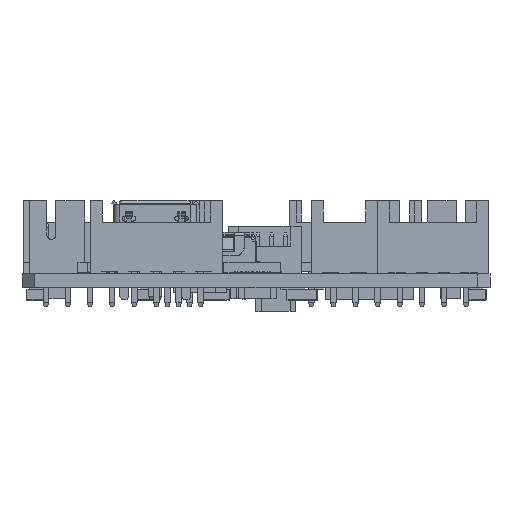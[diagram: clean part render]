
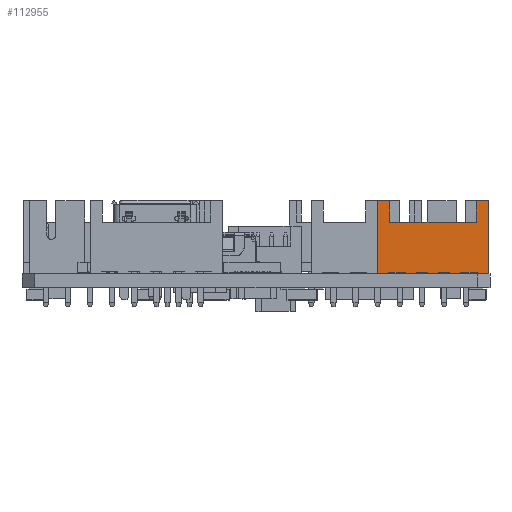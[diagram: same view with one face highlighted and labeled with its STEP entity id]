
A CAD part, front view. The second image highlights one B-rep face of the part: STEP entity #112955.
In plain terms, the highlighted planar face has unit normal (0, -1, 0).
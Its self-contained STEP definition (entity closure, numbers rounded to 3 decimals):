
#109951 = VERTEX_POINT('',#109952);
#109952 = CARTESIAN_POINT('',(21.,-20.5,
    0.01));
#110060 = VERTEX_POINT('',#110061);
#110061 = CARTESIAN_POINT('',(21.,-20.5,
    6.61));
#110067 = EDGE_CURVE('',#109951,#110060,#110068,.T.);
#110068 = LINE('',#110069,#110070);
#110069 = CARTESIAN_POINT('',(21.,-20.5,
    6.61));
#110070 = VECTOR('',#110071,1.);
#110071 = DIRECTION('',(0.,0.,1.));
#110254 = VERTEX_POINT('',#110255);
#110255 = CARTESIAN_POINT('',(19.9,-20.5,
    4.66));
#110261 = EDGE_CURVE('',#110262,#110254,#110264,.T.);
#110262 = VERTEX_POINT('',#110263);
#110263 = CARTESIAN_POINT('',(19.9,-20.5,
    6.61));
#110264 = LINE('',#110265,#110266);
#110265 = CARTESIAN_POINT('',(19.9,-20.5,
    6.61));
#110266 = VECTOR('',#110267,1.);
#110267 = DIRECTION('',(0.,0.,-1.));
#110284 = VERTEX_POINT('',#110285);
#110285 = CARTESIAN_POINT('',(20.,-20.5,
    0.01));
#110293 = EDGE_CURVE('',#110284,#110294,#110296,.T.);
#110294 = VERTEX_POINT('',#110295);
#110295 = CARTESIAN_POINT('',(20.,-20.5,
    0.16));
#110296 = LINE('',#110297,#110298);
#110297 = CARTESIAN_POINT('',(20.,-20.5,
    6.61));
#110298 = VECTOR('',#110299,1.);
#110299 = DIRECTION('',(0.,0.,1.));
#110324 = VERTEX_POINT('',#110325);
#110325 = CARTESIAN_POINT('',(18.5,-20.5,
    0.16));
#110333 = EDGE_CURVE('',#110324,#110334,#110336,.T.);
#110334 = VERTEX_POINT('',#110335);
#110335 = CARTESIAN_POINT('',(18.5,-20.5,
    0.01));
#110336 = LINE('',#110337,#110338);
#110337 = CARTESIAN_POINT('',(18.5,-20.5,
    6.61));
#110338 = VECTOR('',#110339,1.);
#110339 = DIRECTION('',(0.,0.,-1.));
#110363 = EDGE_CURVE('',#110364,#110366,#110368,.T.);
#110364 = VERTEX_POINT('',#110365);
#110365 = CARTESIAN_POINT('',(11.,-20.5,
    0.01));
#110366 = VERTEX_POINT('',#110367);
#110367 = CARTESIAN_POINT('',(12.,-20.5,
    0.01));
#110368 = LINE('',#110369,#110370);
#110369 = CARTESIAN_POINT('',(21.222,-20.5,
    0.01));
#110370 = VECTOR('',#110371,1.);
#110371 = DIRECTION('',(1.,0.,0.));
#110667 = EDGE_CURVE('',#110262,#110060,#110668,.T.);
#110668 = LINE('',#110669,#110670);
#110669 = CARTESIAN_POINT('',(19.9,-20.5,
    6.61));
#110670 = VECTOR('',#110671,1.);
#110671 = DIRECTION('',(1.,0.,0.));
#111423 = EDGE_CURVE('',#110294,#110324,#111424,.T.);
#111424 = LINE('',#111425,#111426);
#111425 = CARTESIAN_POINT('',(10.778,-20.5,
    0.16));
#111426 = VECTOR('',#111427,1.);
#111427 = DIRECTION('',(-1.,0.,0.));
#111432 = VERTEX_POINT('',#111433);
#111433 = CARTESIAN_POINT('',(17.5,-20.5,
    0.16));
#111439 = EDGE_CURVE('',#111440,#111432,#111442,.T.);
#111440 = VERTEX_POINT('',#111441);
#111441 = CARTESIAN_POINT('',(16.5,-20.5,
    0.16));
#111442 = LINE('',#111443,#111444);
#111443 = CARTESIAN_POINT('',(21.222,-20.5,
    0.16));
#111444 = VECTOR('',#111445,1.);
#111445 = DIRECTION('',(1.,0.,0.));
#111464 = VERTEX_POINT('',#111465);
#111465 = CARTESIAN_POINT('',(15.5,-20.5,
    0.16));
#111471 = EDGE_CURVE('',#111472,#111464,#111474,.T.);
#111472 = VERTEX_POINT('',#111473);
#111473 = CARTESIAN_POINT('',(14.5,-20.5,
    0.16));
#111474 = LINE('',#111475,#111476);
#111475 = CARTESIAN_POINT('',(21.222,-20.5,
    0.16));
#111476 = VECTOR('',#111477,1.);
#111477 = DIRECTION('',(1.,0.,0.));
#111496 = VERTEX_POINT('',#111497);
#111497 = CARTESIAN_POINT('',(13.5,-20.5,
    0.16));
#111503 = EDGE_CURVE('',#111504,#111496,#111506,.T.);
#111504 = VERTEX_POINT('',#111505);
#111505 = CARTESIAN_POINT('',(12.,-20.5,
    0.16));
#111506 = LINE('',#111507,#111508);
#111507 = CARTESIAN_POINT('',(21.222,-20.5,
    0.16));
#111508 = VECTOR('',#111509,1.);
#111509 = DIRECTION('',(1.,0.,0.));
#111873 = EDGE_CURVE('',#110334,#111874,#111876,.T.);
#111874 = VERTEX_POINT('',#111875);
#111875 = CARTESIAN_POINT('',(17.5,-20.5,
    0.01));
#111876 = LINE('',#111877,#111878);
#111877 = CARTESIAN_POINT('',(10.778,-20.5,
    0.01));
#111878 = VECTOR('',#111879,1.);
#111879 = DIRECTION('',(-1.,0.,0.));
#112181 = VERTEX_POINT('',#112182);
#112182 = CARTESIAN_POINT('',(13.5,-20.5,
    0.01));
#112188 = EDGE_CURVE('',#111496,#112181,#112189,.T.);
#112189 = LINE('',#112190,#112191);
#112190 = CARTESIAN_POINT('',(13.5,-20.5,
    6.61));
#112191 = VECTOR('',#112192,1.);
#112192 = DIRECTION('',(0.,0.,-1.));
#112286 = EDGE_CURVE('',#109951,#110284,#112287,.T.);
#112287 = LINE('',#112288,#112289);
#112288 = CARTESIAN_POINT('',(10.778,-20.5,
    0.01));
#112289 = VECTOR('',#112290,1.);
#112290 = DIRECTION('',(-1.,0.,0.));
#112445 = EDGE_CURVE('',#112446,#110254,#112448,.T.);
#112446 = VERTEX_POINT('',#112447);
#112447 = CARTESIAN_POINT('',(12.1,-20.5,
    4.66));
#112448 = LINE('',#112449,#112450);
#112449 = CARTESIAN_POINT('',(36.778,-20.5,
    4.66));
#112450 = VECTOR('',#112451,1.);
#112451 = DIRECTION('',(1.,0.,0.));
#112747 = VERTEX_POINT('',#112748);
#112748 = CARTESIAN_POINT('',(11.,-20.5,
    6.61));
#112754 = EDGE_CURVE('',#112755,#112747,#112757,.T.);
#112755 = VERTEX_POINT('',#112756);
#112756 = CARTESIAN_POINT('',(12.1,-20.5,
    6.61));
#112757 = LINE('',#112758,#112759);
#112758 = CARTESIAN_POINT('',(12.1,-20.5,
    6.61));
#112759 = VECTOR('',#112760,1.);
#112760 = DIRECTION('',(-1.,0.,0.));
#112813 = EDGE_CURVE('',#112755,#112446,#112814,.T.);
#112814 = LINE('',#112815,#112816);
#112815 = CARTESIAN_POINT('',(12.1,-20.5,
    6.61));
#112816 = VECTOR('',#112817,1.);
#112817 = DIRECTION('',(0.,0.,-1.));
#112831 = EDGE_CURVE('',#110366,#111504,#112832,.T.);
#112832 = LINE('',#112833,#112834);
#112833 = CARTESIAN_POINT('',(12.,-20.5,
    6.61));
#112834 = VECTOR('',#112835,1.);
#112835 = DIRECTION('',(0.,0.,1.));
#112863 = EDGE_CURVE('',#112864,#112866,#112868,.T.);
#112864 = VERTEX_POINT('',#112865);
#112865 = CARTESIAN_POINT('',(15.5,-20.5,
    0.01));
#112866 = VERTEX_POINT('',#112867);
#112867 = CARTESIAN_POINT('',(16.5,-20.5,
    0.01));
#112868 = LINE('',#112869,#112870);
#112869 = CARTESIAN_POINT('',(21.222,-20.5,
    0.01));
#112870 = VECTOR('',#112871,1.);
#112871 = DIRECTION('',(1.,0.,0.));
#112910 = EDGE_CURVE('',#111464,#112864,#112911,.T.);
#112911 = LINE('',#112912,#112913);
#112912 = CARTESIAN_POINT('',(15.5,-20.5,
    6.61));
#112913 = VECTOR('',#112914,1.);
#112914 = DIRECTION('',(0.,0.,-1.));
#112944 = EDGE_CURVE('',#112866,#111440,#112945,.T.);
#112945 = LINE('',#112946,#112947);
#112946 = CARTESIAN_POINT('',(16.5,-20.5,
    6.61));
#112947 = VECTOR('',#112948,1.);
#112948 = DIRECTION('',(0.,0.,1.));
#112955 = ADVANCED_FACE('',(#112956),#113004,.T.);
#112956 = FACE_BOUND('',#112957,.T.);
#112957 = EDGE_LOOP('',(#112958,#112959,#112960,#112961,#112967,#112968,
    #112969,#112970,#112971,#112979,#112985,#112986,#112987,#112988,
    #112989,#112990,#112996,#112997,#112998,#112999,#113000,#113001,
    #113002,#113003));
#112958 = ORIENTED_EDGE('',*,*,#112445,.F.);
#112959 = ORIENTED_EDGE('',*,*,#112813,.F.);
#112960 = ORIENTED_EDGE('',*,*,#112754,.T.);
#112961 = ORIENTED_EDGE('',*,*,#112962,.F.);
#112962 = EDGE_CURVE('',#110364,#112747,#112963,.T.);
#112963 = LINE('',#112964,#112965);
#112964 = CARTESIAN_POINT('',(11.,-20.5,
    6.61));
#112965 = VECTOR('',#112966,1.);
#112966 = DIRECTION('',(0.,0.,1.));
#112967 = ORIENTED_EDGE('',*,*,#110363,.T.);
#112968 = ORIENTED_EDGE('',*,*,#112831,.T.);
#112969 = ORIENTED_EDGE('',*,*,#111503,.T.);
#112970 = ORIENTED_EDGE('',*,*,#112188,.T.);
#112971 = ORIENTED_EDGE('',*,*,#112972,.T.);
#112972 = EDGE_CURVE('',#112181,#112973,#112975,.T.);
#112973 = VERTEX_POINT('',#112974);
#112974 = CARTESIAN_POINT('',(14.5,-20.5,
    0.01));
#112975 = LINE('',#112976,#112977);
#112976 = CARTESIAN_POINT('',(21.222,-20.5,
    0.01));
#112977 = VECTOR('',#112978,1.);
#112978 = DIRECTION('',(1.,0.,0.));
#112979 = ORIENTED_EDGE('',*,*,#112980,.T.);
#112980 = EDGE_CURVE('',#112973,#111472,#112981,.T.);
#112981 = LINE('',#112982,#112983);
#112982 = CARTESIAN_POINT('',(14.5,-20.5,
    6.61));
#112983 = VECTOR('',#112984,1.);
#112984 = DIRECTION('',(0.,0.,1.));
#112985 = ORIENTED_EDGE('',*,*,#111471,.T.);
#112986 = ORIENTED_EDGE('',*,*,#112910,.T.);
#112987 = ORIENTED_EDGE('',*,*,#112863,.T.);
#112988 = ORIENTED_EDGE('',*,*,#112944,.T.);
#112989 = ORIENTED_EDGE('',*,*,#111439,.T.);
#112990 = ORIENTED_EDGE('',*,*,#112991,.T.);
#112991 = EDGE_CURVE('',#111432,#111874,#112992,.T.);
#112992 = LINE('',#112993,#112994);
#112993 = CARTESIAN_POINT('',(17.5,-20.5,
    6.61));
#112994 = VECTOR('',#112995,1.);
#112995 = DIRECTION('',(0.,0.,-1.));
#112996 = ORIENTED_EDGE('',*,*,#111873,.F.);
#112997 = ORIENTED_EDGE('',*,*,#110333,.F.);
#112998 = ORIENTED_EDGE('',*,*,#111423,.F.);
#112999 = ORIENTED_EDGE('',*,*,#110293,.F.);
#113000 = ORIENTED_EDGE('',*,*,#112286,.F.);
#113001 = ORIENTED_EDGE('',*,*,#110067,.T.);
#113002 = ORIENTED_EDGE('',*,*,#110667,.F.);
#113003 = ORIENTED_EDGE('',*,*,#110261,.T.);
#113004 = PLANE('',#113005);
#113005 = AXIS2_PLACEMENT_3D('',#113006,#113007,#113008);
#113006 = CARTESIAN_POINT('',(46.393,-20.5,
    6.083));
#113007 = DIRECTION('',(0.,-1.,0.));
#113008 = DIRECTION('',(-1.,0.,0.));
